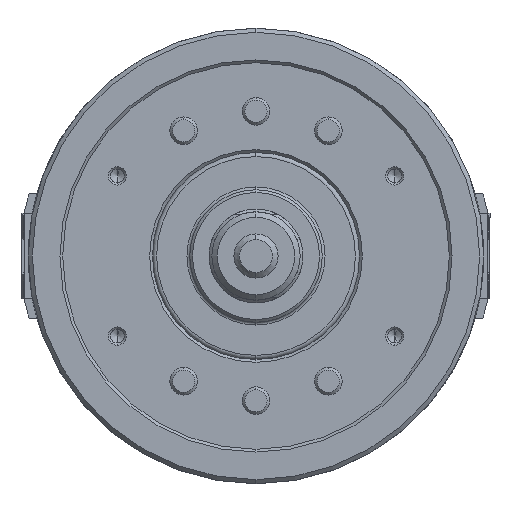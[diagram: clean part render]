
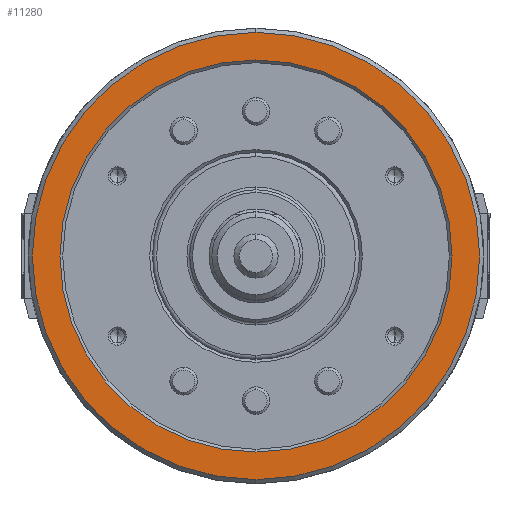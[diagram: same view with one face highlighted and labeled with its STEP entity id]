
A CAD part, left-side view. The second image highlights one B-rep face of the part: STEP entity #11280.
In plain terms, the highlighted planar face has unit normal (-1, 0, 0) as drawn and (0, 0, -1) by its records, which use the part's own axes.
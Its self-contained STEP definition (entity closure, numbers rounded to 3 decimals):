
#301 = DIRECTION ( 'NONE',  ( 1., 0., 0. ) ) ;
#1197 = EDGE_CURVE ( 'NONE', #7160, #31950, #3004, .T. ) ;
#1739 = PLANE ( 'NONE',  #3688 ) ;
#2666 = AXIS2_PLACEMENT_3D ( 'NONE', #22988, #4553, #26036 ) ;
#3004 = CIRCLE ( 'NONE', #30168, 81. ) ;
#3688 = AXIS2_PLACEMENT_3D ( 'NONE', #29475, #14277, #35674 ) ;
#4553 = DIRECTION ( 'NONE',  ( 0., 0., 1. ) ) ;
#4718 = VERTEX_POINT ( 'NONE', #37966 ) ;
#5937 = ORIENTED_EDGE ( 'NONE', *, *, #15582, .T. ) ;
#6374 = ORIENTED_EDGE ( 'NONE', *, *, #1197, .F. ) ;
#7160 = VERTEX_POINT ( 'NONE', #33122 ) ;
#10552 = DIRECTION ( 'NONE',  ( 0., 0., 1. ) ) ;
#11280 = ADVANCED_FACE ( 'NONE', ( #30757, #14543 ), #1739, .F. ) ;
#12629 = EDGE_CURVE ( 'NONE', #4718, #29455, #38838, .T. ) ;
#14277 = DIRECTION ( 'NONE',  ( 0., 0., 1. ) ) ;
#14543 = FACE_BOUND ( 'NONE', #18685, .T. ) ;
#14995 = AXIS2_PLACEMENT_3D ( 'NONE', #37237, #18927, #301 ) ;
#15263 = CARTESIAN_POINT ( 'NONE',  ( -71., 0., -74. ) ) ;
#15582 = EDGE_CURVE ( 'NONE', #29455, #4718, #22391, .T. ) ;
#18536 = CIRCLE ( 'NONE', #36864, 81. ) ;
#18685 = EDGE_LOOP ( 'NONE', ( #5937, #27940 ) ) ;
#18927 = DIRECTION ( 'NONE',  ( 0., 0., 1. ) ) ;
#22018 = EDGE_LOOP ( 'NONE', ( #6374, #36528 ) ) ;
#22391 = CIRCLE ( 'NONE', #14995, 71. ) ;
#22988 = CARTESIAN_POINT ( 'NONE',  ( 0., 0., -74. ) ) ;
#24327 = CARTESIAN_POINT ( 'NONE',  ( -81., 0., -74. ) ) ;
#26036 = DIRECTION ( 'NONE',  ( 1., 0., 0. ) ) ;
#26679 = CARTESIAN_POINT ( 'NONE',  ( 0., 0., -74. ) ) ;
#26765 = DIRECTION ( 'NONE',  ( 0., 0., 1. ) ) ;
#26804 = DIRECTION ( 'NONE',  ( 1., 0., 0. ) ) ;
#27940 = ORIENTED_EDGE ( 'NONE', *, *, #12629, .T. ) ;
#28876 = CARTESIAN_POINT ( 'NONE',  ( 0., 0., -74. ) ) ;
#29455 = VERTEX_POINT ( 'NONE', #15263 ) ;
#29475 = CARTESIAN_POINT ( 'NONE',  ( 0., -71., -74. ) ) ;
#30168 = AXIS2_PLACEMENT_3D ( 'NONE', #26679, #26765, #26804 ) ;
#30757 = FACE_OUTER_BOUND ( 'NONE', #22018, .T. ) ;
#31950 = VERTEX_POINT ( 'NONE', #24327 ) ;
#31989 = DIRECTION ( 'NONE',  ( 1., 0., 0. ) ) ;
#33122 = CARTESIAN_POINT ( 'NONE',  ( 81., 0., -74. ) ) ;
#35674 = DIRECTION ( 'NONE',  ( 1., 0., 0. ) ) ;
#36511 = EDGE_CURVE ( 'NONE', #31950, #7160, #18536, .T. ) ;
#36528 = ORIENTED_EDGE ( 'NONE', *, *, #36511, .F. ) ;
#36864 = AXIS2_PLACEMENT_3D ( 'NONE', #28876, #10552, #31989 ) ;
#37237 = CARTESIAN_POINT ( 'NONE',  ( 0., 0., -74. ) ) ;
#37966 = CARTESIAN_POINT ( 'NONE',  ( 71., 0., -74. ) ) ;
#38838 = CIRCLE ( 'NONE', #2666, 71. ) ;
